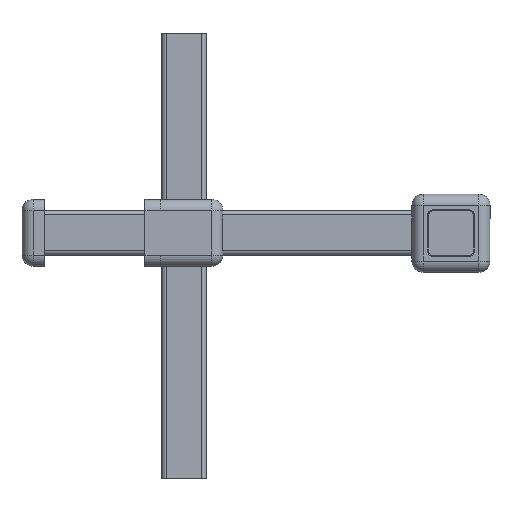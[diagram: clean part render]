
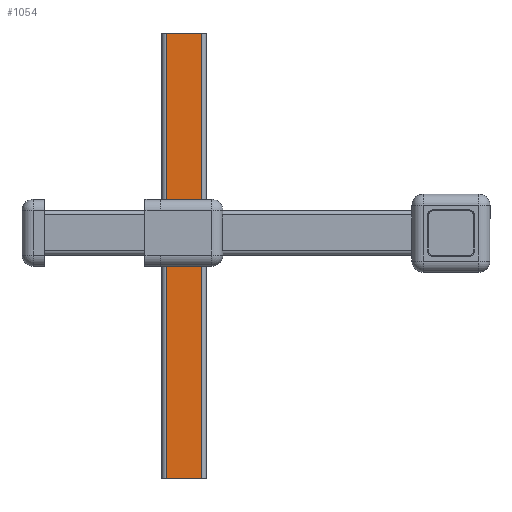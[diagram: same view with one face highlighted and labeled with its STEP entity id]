
A CAD part, front view. The second image highlights one B-rep face of the part: STEP entity #1054.
In plain terms, the highlighted planar face has unit normal (0, -1, 0).
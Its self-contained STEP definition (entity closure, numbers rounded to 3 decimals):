
#169 = PLANE ( 'NONE',  #1130 ) ;
#187 = VERTEX_POINT ( 'NONE', #3585 ) ;
#849 = ORIENTED_EDGE ( 'NONE', *, *, #2334, .T. ) ;
#1054 = ADVANCED_FACE ( 'NONE', ( #5809 ), #169, .F. ) ;
#1112 = EDGE_CURVE ( 'NONE', #1373, #2471, #2828, .T. ) ;
#1130 = AXIS2_PLACEMENT_3D ( 'NONE', #3793, #4279, #2453 ) ;
#1373 = VERTEX_POINT ( 'NONE', #4319 ) ;
#1396 = CARTESIAN_POINT ( 'NONE',  ( 0., 0., 200. ) ) ;
#1431 = VECTOR ( 'NONE', #1938, 1000. ) ;
#1645 = VERTEX_POINT ( 'NONE', #4074 ) ;
#1911 = CARTESIAN_POINT ( 'NONE',  ( 0., 0., 0. ) ) ;
#1938 = DIRECTION ( 'NONE',  ( 1., 0., 0. ) ) ;
#1987 = CARTESIAN_POINT ( 'NONE',  ( 18., 0., 200. ) ) ;
#2334 = EDGE_CURVE ( 'NONE', #1645, #187, #4428, .T. ) ;
#2453 = DIRECTION ( 'NONE',  ( 0., 0., 1. ) ) ;
#2471 = VERTEX_POINT ( 'NONE', #1987 ) ;
#2582 = EDGE_LOOP ( 'NONE', ( #849, #4313, #5564, #3895 ) ) ;
#2759 = CARTESIAN_POINT ( 'NONE',  ( 18., 0., 200. ) ) ;
#2828 = LINE ( 'NONE', #1396, #3112 ) ;
#3112 = VECTOR ( 'NONE', #4602, 1000. ) ;
#3585 = CARTESIAN_POINT ( 'NONE',  ( 18., 0., 0. ) ) ;
#3617 = LINE ( 'NONE', #2759, #4337 ) ;
#3793 = CARTESIAN_POINT ( 'NONE',  ( 0., 0., 200. ) ) ;
#3895 = ORIENTED_EDGE ( 'NONE', *, *, #5396, .T. ) ;
#3948 = EDGE_CURVE ( 'NONE', #187, #2471, #3617, .T. ) ;
#4074 = CARTESIAN_POINT ( 'NONE',  ( 2., 0., 0. ) ) ;
#4102 = VECTOR ( 'NONE', #5170, 1000. ) ;
#4247 = LINE ( 'NONE', #4595, #4102 ) ;
#4279 = DIRECTION ( 'NONE',  ( 0., 1., 0. ) ) ;
#4313 = ORIENTED_EDGE ( 'NONE', *, *, #3948, .T. ) ;
#4319 = CARTESIAN_POINT ( 'NONE',  ( 2., 0., 200. ) ) ;
#4337 = VECTOR ( 'NONE', #4598, 1000. ) ;
#4428 = LINE ( 'NONE', #1911, #1431 ) ;
#4595 = CARTESIAN_POINT ( 'NONE',  ( 2., 0., 200. ) ) ;
#4598 = DIRECTION ( 'NONE',  ( 0., 0., 1. ) ) ;
#4602 = DIRECTION ( 'NONE',  ( 1., 0., 0. ) ) ;
#5170 = DIRECTION ( 'NONE',  ( 0., 0., -1. ) ) ;
#5396 = EDGE_CURVE ( 'NONE', #1373, #1645, #4247, .T. ) ;
#5564 = ORIENTED_EDGE ( 'NONE', *, *, #1112, .F. ) ;
#5809 = FACE_OUTER_BOUND ( 'NONE', #2582, .T. ) ;
